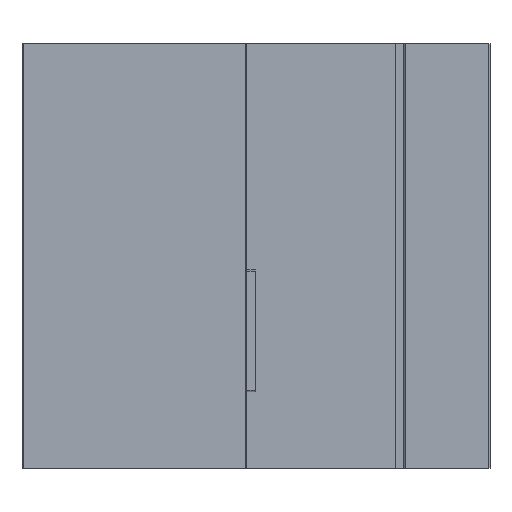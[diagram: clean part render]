
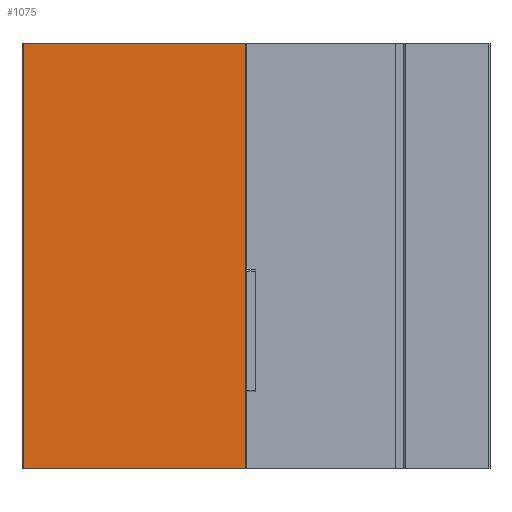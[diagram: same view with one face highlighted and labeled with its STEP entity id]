
A CAD part, front view. The second image highlights one B-rep face of the part: STEP entity #1075.
In plain terms, the highlighted planar face has unit normal (0, -1, 0).
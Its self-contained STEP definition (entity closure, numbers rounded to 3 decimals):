
#627 = EDGE_CURVE( '', #1089, #1067, #1782, .T. );
#823 = VERTEX_POINT( '', #1993 );
#825 = VERTEX_POINT( '', #1995 );
#979 = EDGE_CURVE( '', #825, #1067, #2172, .T. );
#1067 = VERTEX_POINT( '', #2273 );
#1075 = ADVANCED_FACE( '', ( #2282 ), #2283, .T. );
#1089 = VERTEX_POINT( '', #2297 );
#1557 = EDGE_CURVE( '', #823, #1089, #2823, .T. );
#1719 = EDGE_CURVE( '', #823, #825, #3006, .T. );
#1782 = LINE( '', #3077, #3078 );
#1993 = CARTESIAN_POINT( '', ( -24.2, -3., 0. ) );
#1995 = CARTESIAN_POINT( '', ( -24.2, -3., -34. ) );
#2172 = LINE( '', #3618, #3619 );
#2273 = CARTESIAN_POINT( '', ( -6.4, -3., -34. ) );
#2282 = FACE_OUTER_BOUND( '', #3761, .T. );
#2283 = PLANE( '', #3762 );
#2297 = CARTESIAN_POINT( '', ( -6.4, -3., 0. ) );
#2823 = LINE( '', #4495, #4496 );
#3006 = LINE( '', #4744, #4745 );
#3077 = CARTESIAN_POINT( '', ( -6.4, -3., 0. ) );
#3078 = VECTOR( '', #4806, 1. );
#3618 = CARTESIAN_POINT( '', ( -24.2, -3., -34. ) );
#3619 = VECTOR( '', #5228, 1. );
#3761 = EDGE_LOOP( '', ( #5382, #5383, #5384, #5385 ) );
#3762 = AXIS2_PLACEMENT_3D( '', #5386, #5387, #5388 );
#4495 = CARTESIAN_POINT( '', ( -24.2, -3., 0. ) );
#4496 = VECTOR( '', #5960, 1. );
#4744 = CARTESIAN_POINT( '', ( -24.2, -3., 0. ) );
#4745 = VECTOR( '', #6193, 1. );
#4806 = DIRECTION( '', ( 0., 0., -1. ) );
#5228 = DIRECTION( '', ( 1., 0., 0. ) );
#5382 = ORIENTED_EDGE( '', *, *, #979, .T. );
#5383 = ORIENTED_EDGE( '', *, *, #627, .F. );
#5384 = ORIENTED_EDGE( '', *, *, #1557, .F. );
#5385 = ORIENTED_EDGE( '', *, *, #1719, .T. );
#5386 = CARTESIAN_POINT( '', ( -24.2, -3., 0. ) );
#5387 = DIRECTION( '', ( 0., -1., 0. ) );
#5388 = DIRECTION( '', ( -1., 0., 0. ) );
#5960 = DIRECTION( '', ( 1., 0., 0. ) );
#6193 = DIRECTION( '', ( 0., 0., -1. ) );
